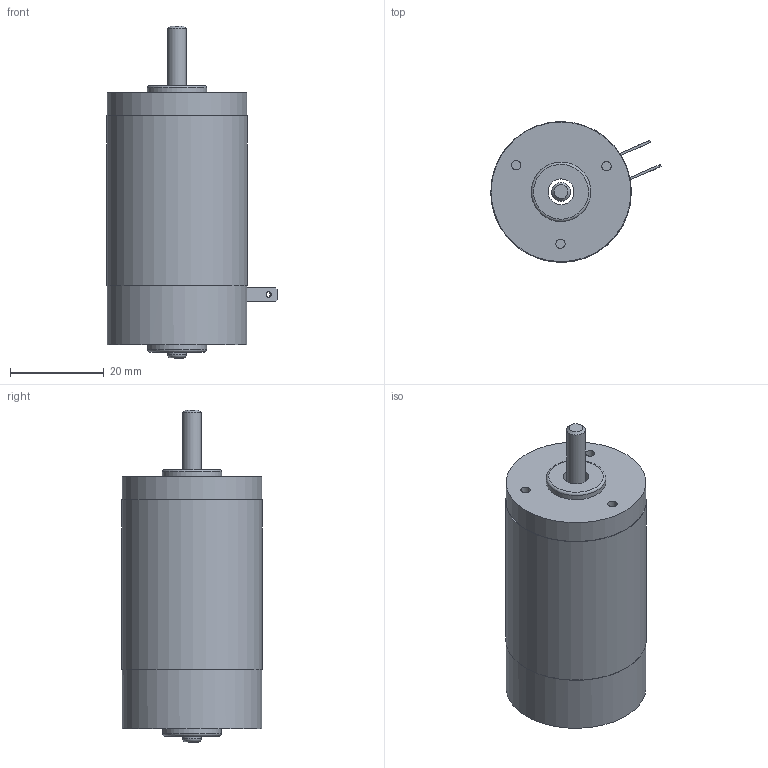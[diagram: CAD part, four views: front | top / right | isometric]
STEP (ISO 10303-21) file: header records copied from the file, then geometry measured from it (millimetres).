
FILE_DESCRIPTION((''),'2;1');
FILE_NAME('D:\연구개발부2팀 1파트\10_진행업무\3D\RM3_SERIES\RM34ㅁBT.stp','2014-06-23T09:57:12',('song'),(''),'Autodesk Inventor 2011','Autodesk Inventor 2011','');
FILE_SCHEMA(('AUTOMOTIVE_DESIGN { 1 0 10303 214 1 1 1 1 }'));
Length unit declared in the file: millimetre
Products named in the file (7): RM34ㅁBT; RM33_SHAFT; RM3_PIPE_HOUSING_30X36.2; AS 1427 Z - 미터 M2.5 x 8; RM3_front; RM3_REAR_HOUSING; RM3_BRUSH_TERMINAL_TYPE
Assembly tree (7 placements, depth 2):
  RM34ㅁBT
    RM33_SHAFT
    RM3_PIPE_HOUSING_30X36.2
    AS 1427 Z - 미터 M2.5 x 8  x2
    RM3_front
    RM3_REAR_HOUSING
    RM3_BRUSH_TERMINAL_TYPE
Bounding box: 36.37 x 29.99 x 70.81 mm (x, y, z)
Volume: 26055.6 mm3; surface area: 13446 mm2
Topology: 7 solids, 7 shells, 145 faces, 354 edges, 231 vertices
Faces by surface type: plane 70, cone 35, cylinder 29, torus 11
Full cylindrical faces by diameter (mm): 1.2 x2, 1.8 x3, 2 x3, 2.224 x2, 2.5 x2, 2.6 x2, 3.969 x1, 4 x1, 4.4 x2, 5.5 x1, 6.5 x1, 12.6 x1, 12.7 x1, 17.855 x1, 27.2 x1, 29.8 x2, 30 x1
Entity records: 3241 total; most frequent: CARTESIAN_POINT 718, DIRECTION 498, ORIENTED_EDGE 412, AXIS2_PLACEMENT_3D 210, EDGE_CURVE 206, EDGE_LOOP 170, VERTEX_POINT 154, FACE_OUTER_BOUND 104
